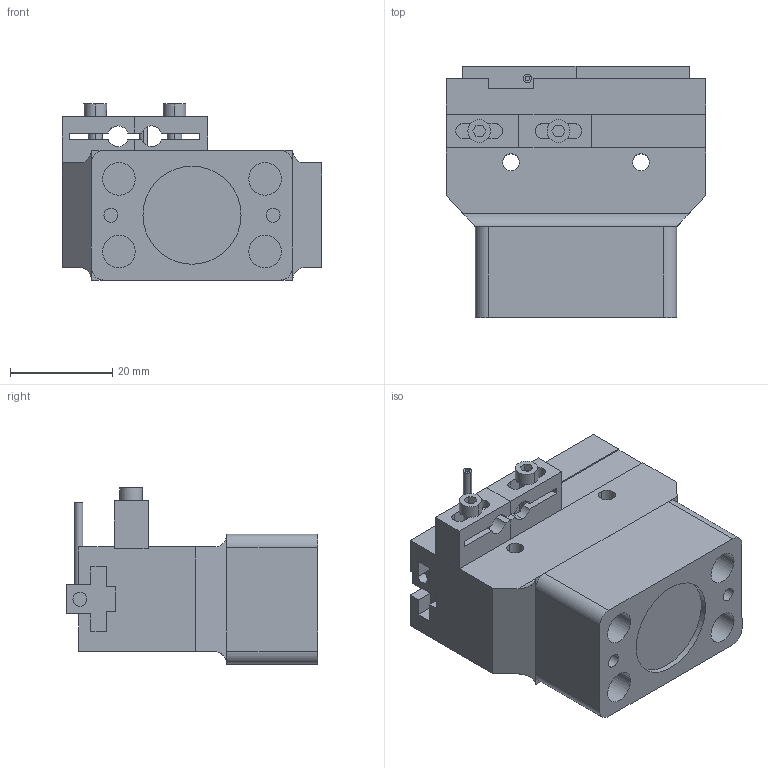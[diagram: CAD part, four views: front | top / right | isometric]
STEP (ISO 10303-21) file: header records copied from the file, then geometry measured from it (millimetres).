
FILE_DESCRIPTION (( 'STEP AP203' ), '1' );
FILE_NAME ('AGPT-500 CLOSED in MM.STEP', '2014-10-31T19:52:45', ( 'setup' ), ( '' ), 'SwSTEP 2.0', 'SolidWorks 2013', '' );
FILE_SCHEMA (( 'CONFIG_CONTROL_DESIGN' ));
Length unit declared in the file: millimetre
Products named in the file (6): RPG25B; RPG25G2; RPG25S1; RPG25S2; AGPT-500 CLOSED in MM; RPG25G
Assembly tree (5 placements, depth 2):
  AGPT-500 CLOSED in MM
    RPG25B
    RPG25G2
    RPG25S2
    RPG25G
    RPG25S1
Bounding box: 50.8 x 49.12 x 34.48 mm (x, y, z)
Volume: 46239.2 mm3; surface area: 16011 mm2
Topology: 5 solids, 6 shells, 242 faces, 614 edges, 404 vertices
Faces by surface type: plane 158, cylinder 84
Entity records: 8032 total; most frequent: CARTESIAN_POINT 1384, DIRECTION 1274, ORIENTED_EDGE 1228, EDGE_CURVE 614, VECTOR 430, LINE 430, AXIS2_PLACEMENT_3D 422, VERTEX_POINT 404
